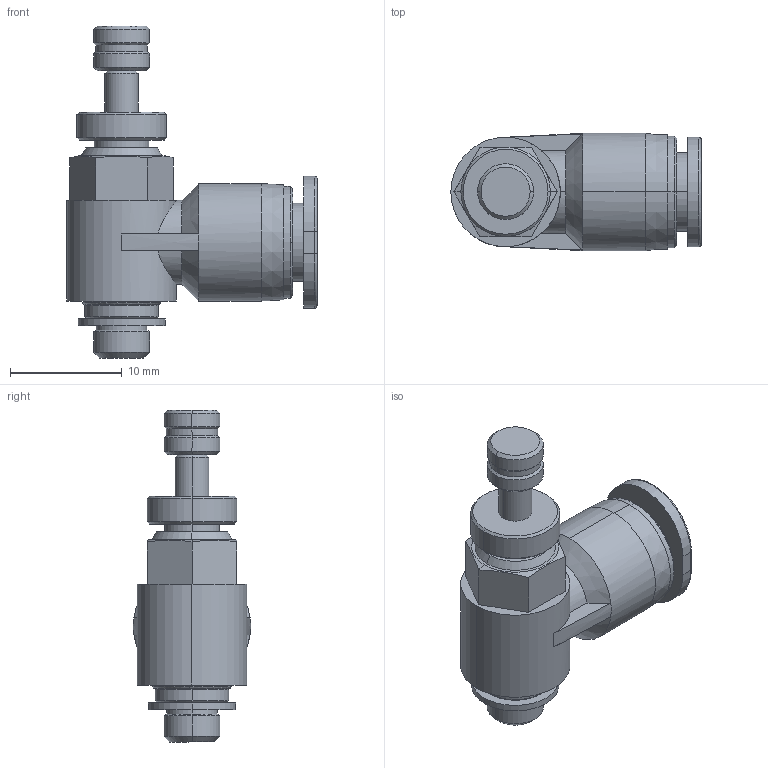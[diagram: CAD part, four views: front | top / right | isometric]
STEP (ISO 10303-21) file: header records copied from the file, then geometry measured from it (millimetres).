
FILE_DESCRIPTION (( 'STEP AP214' ), '1' );
FILE_NAME ('AJSC6-M5.STEP', '2019-12-06T02:41:15', ( '微软用户' ), ( '微软中国' ), 'SwSTEP 2.0', 'SolidWorks 2016', '' );
FILE_SCHEMA (( 'AUTOMOTIVE_DESIGN' ));
Length unit declared in the file: millimetre
Products named in the file (1): AJSC6-M5
Bounding box: 22.4 x 10.5 x 29.71 mm (x, y, z)
Volume: 1995.9 mm3; surface area: 1740.6 mm2
Topology: 1 solids, 1 shells, 119 faces, 262 edges, 159 vertices
Faces by surface type: cone 44, cylinder 40, plane 29, bspline 6
Entity records: 3579 total; most frequent: CARTESIAN_POINT 891, DIRECTION 596, ORIENTED_EDGE 524, EDGE_CURVE 262, AXIS2_PLACEMENT_3D 249, VERTEX_POINT 159, CIRCLE 135, EDGE_LOOP 133
